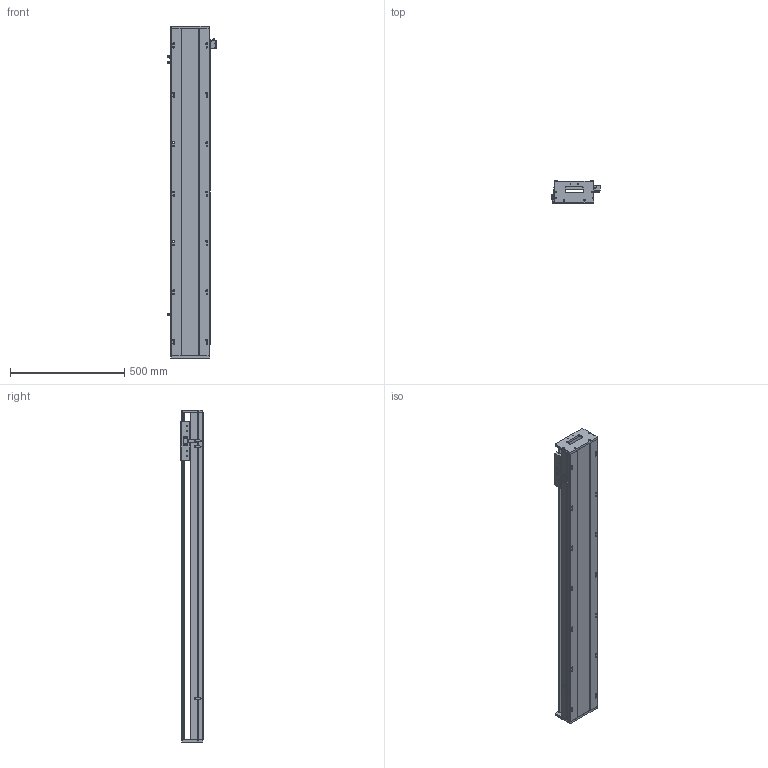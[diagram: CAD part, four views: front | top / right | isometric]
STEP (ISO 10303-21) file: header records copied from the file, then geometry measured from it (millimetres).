
FILE_DESCRIPTION (( 'STEP AP203' ), '1' );
FILE_NAME ('SKR17S-C1-S1182（简）.STEP', '2022-09-29T05:40:11', ( '' ), ( '' ), 'SwSTEP 2.0', 'SolidWorks 2018', '' );
FILE_SCHEMA (( 'CONFIG_CONTROL_DESIGN' ));
Length unit declared in the file: millimetre
Products named in the file (8): EE-SX672; 棠掑假蚾輸; 感应片（SKR12S-14S-17S）; SIKO棠掑; SKR17耜啣; SKR17滑台-170L（简）; SKR17菁釱-C1-S1182(潠); SKR17S-C1-S1182（简）
Assembly tree (10 placements, depth 2):
  SKR17S-C1-S1182（简）
    SKR17菁釱-C1-S1182(潠)
    SKR17滑台-170L（简）
    SIKO棠掑
    EE-SX672  x3
    SKR17耜啣  x2
    棠掑假蚾輸
    感应片（SKR12S-14S-17S）
Bounding box: 212.7 x 97 x 1452 mm (x, y, z)
Volume: 11367489.1 mm3; surface area: 1416665.5 mm2
Topology: 11 solids, 11 shells, 1137 faces, 3145 edges, 2024 vertices
Faces by surface type: cylinder 536, plane 481, cone 120
Entity records: 34438 total; most frequent: CARTESIAN_POINT 8969, ORIENTED_EDGE 5310, DIRECTION 4956, EDGE_CURVE 2655, AXIS2_PLACEMENT_3D 1763, VERTEX_POINT 1728, LINE 1430, VECTOR 1430
